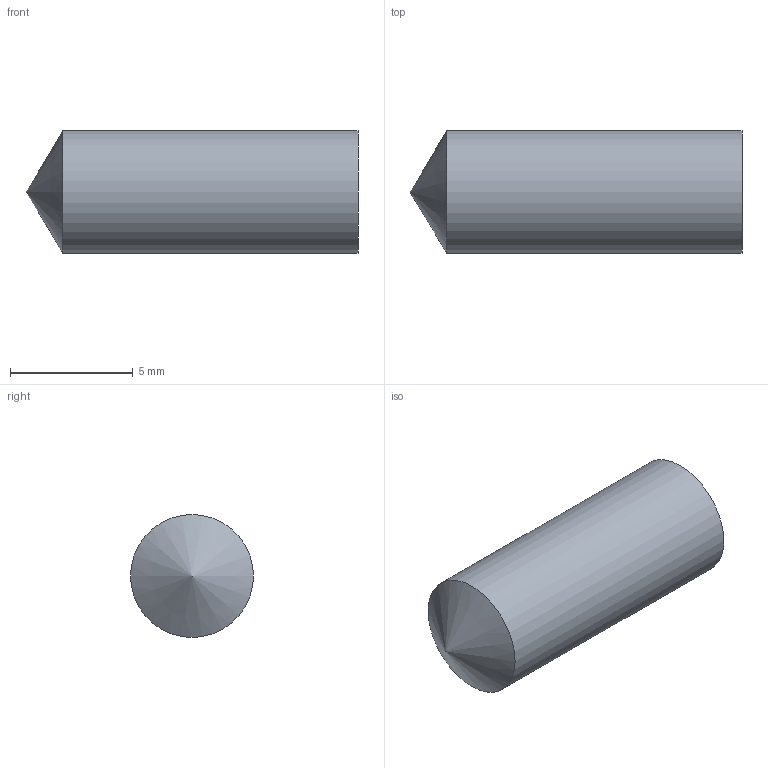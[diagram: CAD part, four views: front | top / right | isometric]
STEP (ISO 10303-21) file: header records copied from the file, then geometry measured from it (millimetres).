
FILE_DESCRIPTION(/* description */ (''),/* implementation_level */ '2;1');
FILE_NAME(/* name */ 'C:\Users\matthiask.LAMELLONET\Desktop\Bohrung_D5x12mm.stp',/* time_stamp */ '2021-07-09T13:13:58+02:00',/* author */ ('matthiask'),/* organization */ (''),/* preprocessor_version */ 'ST-DEVELOPER v18',/* originating_system */ 'Autodesk Inventor 2020',/* authorisation */ '');
FILE_SCHEMA (('AUTOMOTIVE_DESIGN { 1 0 10303 214 3 1 1 }'));
Length unit declared in the file: millimetre
Products named in the file (1): Bohrung D8x13.5
Bounding box: 13.5 x 5 x 5 mm (x, y, z)
Volume: 245.5 mm3; surface area: 231 mm2
Topology: 1 solids, 1 shells, 3 faces, 7 edges, 5 vertices
Faces by surface type: plane 1, cone 1, cylinder 1
Full cylindrical faces by diameter (mm): 5 x1
Entity records: 129 total; most frequent: DIRECTION 18, CARTESIAN_POINT 15, ORIENTED_EDGE 12, AXIS2_PLACEMENT_3D 8, EDGE_CURVE 6, VERTEX_POINT 5, CIRCLE 4, FACE_OUTER_BOUND 3
